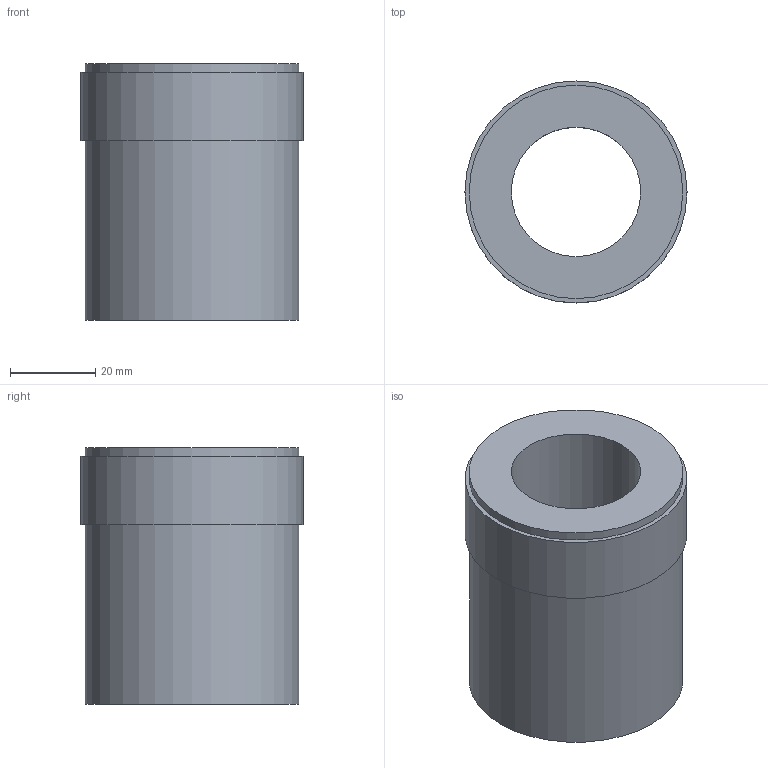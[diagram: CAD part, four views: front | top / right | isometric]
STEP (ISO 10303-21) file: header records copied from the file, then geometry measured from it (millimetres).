
FILE_DESCRIPTION(/* description */ (''),/* implementation_level */ '2;1');
FILE_NAME(/* name */ 'Z:\Geberit\Export\NewStep\361721.stp',/* time_stamp */ '2014-04-01T21:07:06+02:00',/* author */ ('nelson'),/* organization */ (''),/* preprocessor_version */ 'ST-DEVELOPER v15.2',/* originating_system */ 'Autodesk Inventor 2014',/* authorisation */ '');
FILE_SCHEMA (('AUTOMOTIVE_DESIGN { 1 0 10303 214 3 1 1 }'));
Length unit declared in the file: millimetre
Products named in the file (1): 361721
Bounding box: 52 x 52 x 60 mm (x, y, z)
Volume: 48634.5 mm3; surface area: 19172.6 mm2
Topology: 1 solids, 1 shells, 11 faces, 21 edges, 14 vertices
Faces by surface type: cylinder 5, plane 4, torus 1, cone 1
Full cylindrical faces by diameter (mm): 30.291 x1, 44 x1, 50 x2, 52 x1
Entity records: 259 total; most frequent: DIRECTION 46, CARTESIAN_POINT 34, AXIS2_PLACEMENT_3D 23, EDGE_LOOP 22, ORIENTED_EDGE 22, FACE_BOUND 14, CIRCLE 11, VERTEX_POINT 11
